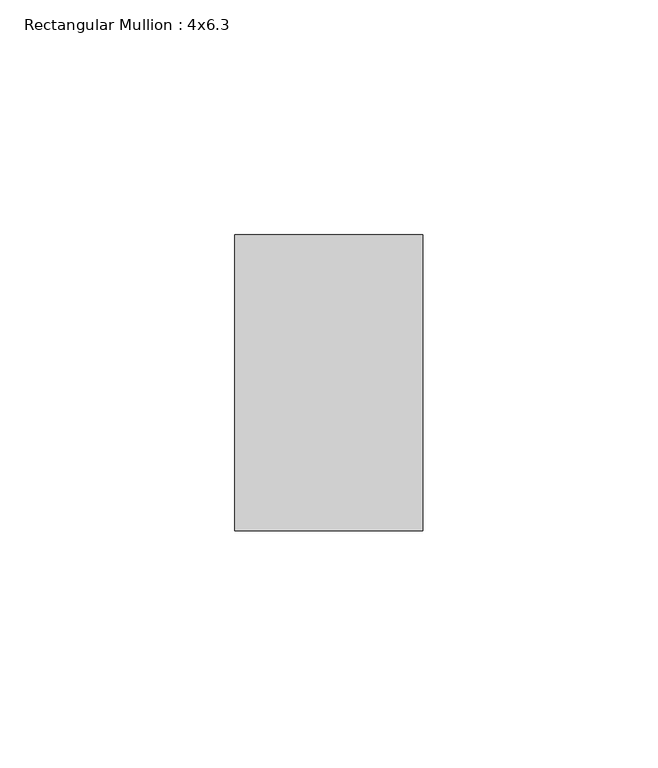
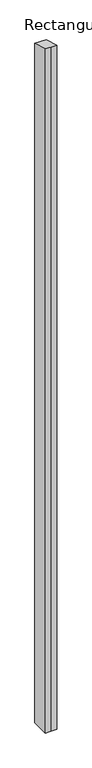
"""IFC4 building model written with IfcOpenShell, lengths in millimetres: member geometry, Rectangular Mullion : 4x6.3."""

from ifc_helpers import new_model, si_unit, origin, place, context, project, spatial, faceted_brep, source, transform, mapped, element, save


def rectangular_mullion_4x6_3_fe4b923a(model_context):
    return source(origin(), model_context, "Body", "Brep", [
        faceted_brep([(-20.0, 20.0, -2547.8026374), (-20.0, 83.0, -2547.8026374), (20.0, 83.0, -2547.8026374), (20.0, 20.0, -2547.8026374), (0.0, 20.0, -2547.8026374), (0.0, 20.0, -5.4283368), (-20.0, 20.0, -5.4283368), (20.0, 20.0, -5.4283368), (20.0, 83.0, -22.5275978), (-20.0, 83.0, -22.5275978)], [[[0, 1, 2, 3, 4]], [[5, 6, 0, 4]], [[7, 5, 4, 3]], [[8, 7, 3, 2]], [[9, 8, 2, 1]], [[6, 9, 1, 0]], [[6, 5, 7, 8, 9]]]),
    ])


if __name__ == "__main__":
    model = new_model("IFC4")
    model_context = context("Model", 3, world=origin())
    ifc_project = project(units=[si_unit("LENGTHUNIT", "METRE", prefix="MILLI")], contexts=[model_context])
    site = spatial("IfcSite", under=ifc_project)
    building = spatial("IfcBuilding", under=site)
    placement = place(None, origin())
    rectangular_mullion_4x6_3_shape = rectangular_mullion_4x6_3_fe4b923a(model_context)
    element("IfcMember", 1, ObjectType="Rectangular Mullion : 4x6.3", at=placement, inside=building, context=model_context, shape_type="MappedRepresentation", body=[
        mapped(rectangular_mullion_4x6_3_shape, transform((0.0, 0.0, 0.0), x_axis=(1.0, 0.0, 0.0), y_axis=(0.0, 1.0, 0.0), z_axis=(0.0, 0.0, 1.0))),
    ])
    save(model, "model.ifc")
